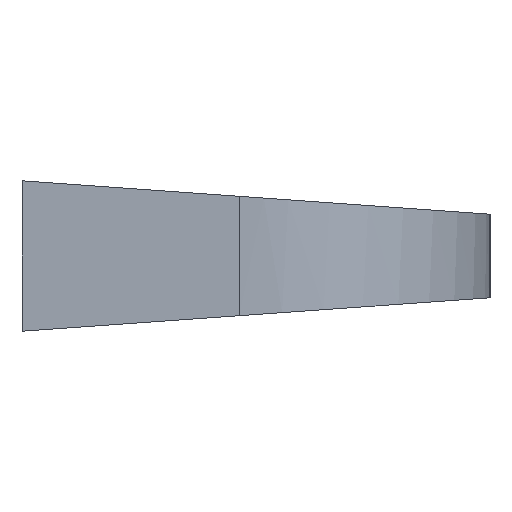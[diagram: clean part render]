
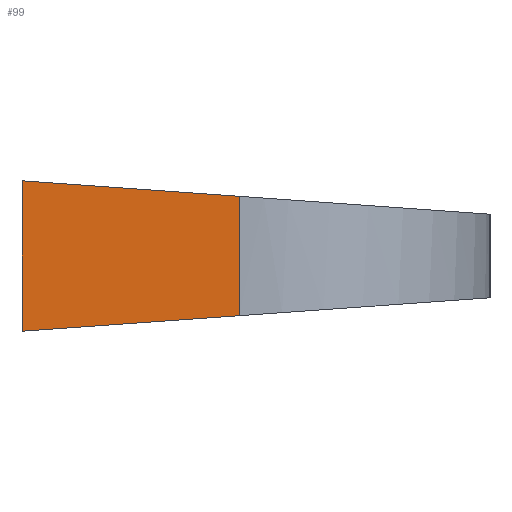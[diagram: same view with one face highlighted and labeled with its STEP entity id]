
A CAD part, left-side view. The second image highlights one B-rep face of the part: STEP entity #99.
In plain terms, the highlighted planar face has unit normal (-1, 0, 0).
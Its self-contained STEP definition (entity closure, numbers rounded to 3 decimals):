
#99 = ADVANCED_FACE( '', ( #193 ), #194, .F. );
#193 = FACE_OUTER_BOUND( '', #279, .T. );
#194 = PLANE( '', #280 );
#279 = EDGE_LOOP( '', ( #438, #439, #440, #441 ) );
#280 = AXIS2_PLACEMENT_3D( '', #442, #443, #444 );
#438 = ORIENTED_EDGE( '', *, *, #548, .T. );
#439 = ORIENTED_EDGE( '', *, *, #531, .T. );
#440 = ORIENTED_EDGE( '', *, *, #551, .F. );
#441 = ORIENTED_EDGE( '', *, *, #538, .T. );
#442 = CARTESIAN_POINT( '', ( -4.5, 0., 4.5 ) );
#443 = DIRECTION( '', ( 1., 0., 0. ) );
#444 = DIRECTION( '', ( 0., 0., -1. ) );
#531 = EDGE_CURVE( '', #621, #627, #629, .T. );
#538 = EDGE_CURVE( '', #631, #637, #639, .T. );
#548 = EDGE_CURVE( '', #637, #621, #652, .T. );
#551 = EDGE_CURVE( '', #631, #627, #655, .T. );
#621 = VERTEX_POINT( '', #774 );
#627 = VERTEX_POINT( '', #783 );
#629 = LINE( '', #785, #786 );
#631 = VERTEX_POINT( '', #788 );
#637 = VERTEX_POINT( '', #796 );
#639 = LINE( '', #799, #800 );
#652 = LINE( '', #814, #815 );
#655 = LINE( '', #818, #819 );
#774 = CARTESIAN_POINT( '', ( -4.5, 0., -4.5 ) );
#783 = CARTESIAN_POINT( '', ( -4.5, -13., -3.571 ) );
#785 = CARTESIAN_POINT( '', ( -4.5, -0.64, -4.454 ) );
#786 = VECTOR( '', #886, 1000. );
#788 = CARTESIAN_POINT( '', ( -4.5, -13., 3.571 ) );
#796 = CARTESIAN_POINT( '', ( -4.5, 0., 4.5 ) );
#799 = CARTESIAN_POINT( '', ( -4.5, 0., 4.5 ) );
#800 = VECTOR( '', #896, 1000. );
#814 = CARTESIAN_POINT( '', ( -4.5, 0., 4.5 ) );
#815 = VECTOR( '', #910, 1000. );
#818 = CARTESIAN_POINT( '', ( -4.5, -13., 4.5 ) );
#819 = VECTOR( '', #911, 1000. );
#886 = DIRECTION( '', ( 0., -0.997, 0.071 ) );
#896 = DIRECTION( '', ( 0., 0.997, 0.071 ) );
#910 = DIRECTION( '', ( 0., 0., -1. ) );
#911 = DIRECTION( '', ( 0., 0., -1. ) );
